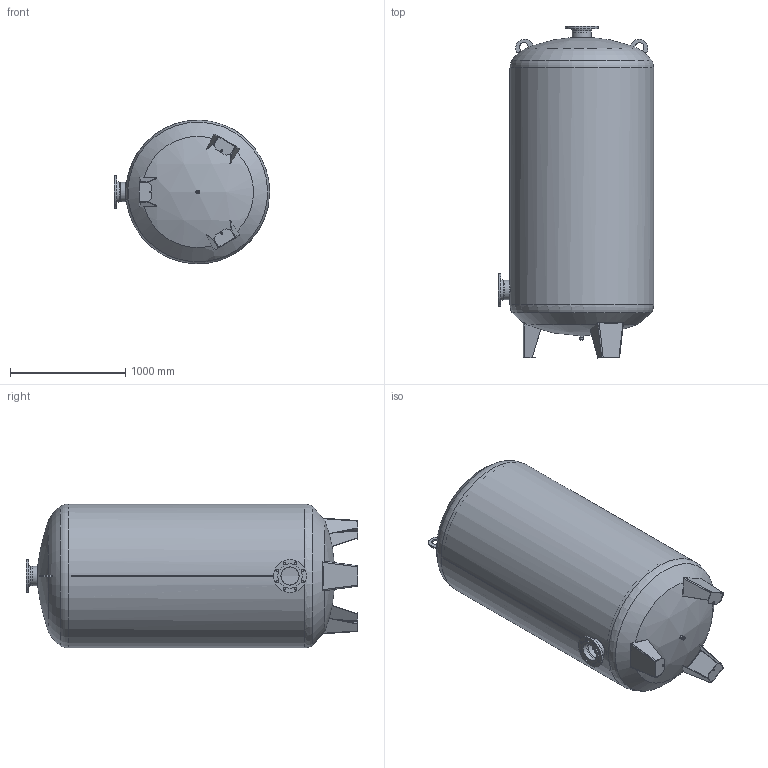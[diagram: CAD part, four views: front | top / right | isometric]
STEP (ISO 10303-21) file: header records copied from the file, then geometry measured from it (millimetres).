
FILE_DESCRIPTION((''),'2;1');
FILE_NAME('C:\Vault\Inventor\Expansion\elko-mat\EV\EV 3000\EV3000-10-110.stp','2012-06-11T14:42:50',('Walder'),(''),'Autodesk Inventor 11','Autodesk Inventor 11','');
FILE_SCHEMA(('AUTOMOTIVE_DESIGN { 1 0 10303 214 1 1 1 1 }'));
Length unit declared in the file: millimetre
Products named in the file (1): EV3000-10-110
Bounding box: 1350 x 2886.03 x 1249.73 mm (x, y, z)
Volume: 113401853.2 mm3; surface area: 23613295.9 mm2
Topology: 4 solids, 4 shells, 201 faces, 548 edges, 357 vertices
Faces by surface type: plane 96, cylinder 61, bspline 33, torus 6, cone 3, sphere 2
Full cylindrical faces by diameter (mm): 20.99 x1, 22 x16, 24.117 x1, 32 x1, 155.7 x2, 159.3 x2, 168 x1, 168.3 x2, 212 x2, 285 x2, 1222 x2, 1250 x1
Entity records: 9883 total; most frequent: CARTESIAN_POINT 5098, ORIENTED_EDGE 984, DIRECTION 875, EDGE_CURVE 492, VERTEX_POINT 350, AXIS2_PLACEMENT_3D 331, EDGE_LOOP 315, VECTOR 213
